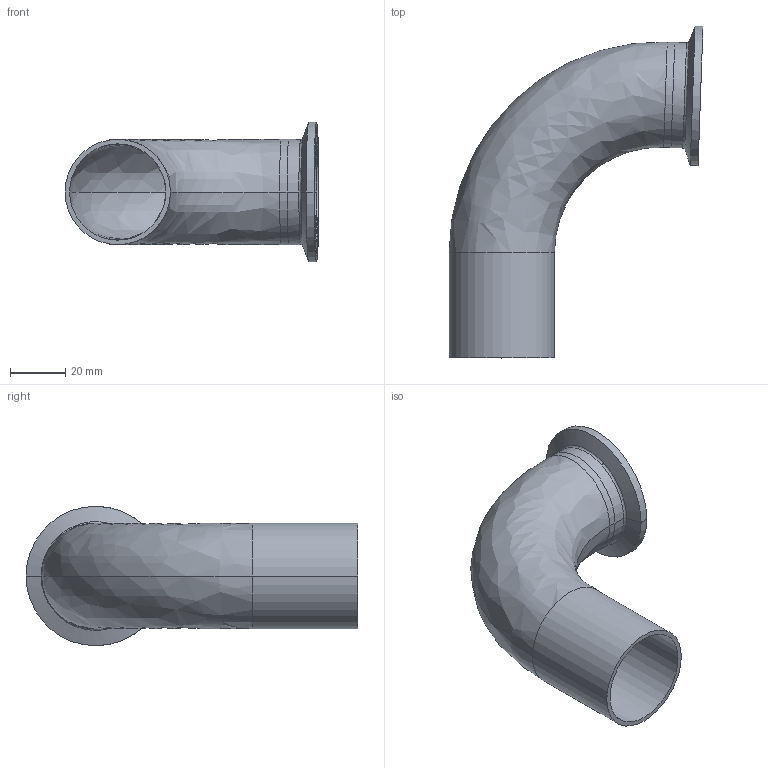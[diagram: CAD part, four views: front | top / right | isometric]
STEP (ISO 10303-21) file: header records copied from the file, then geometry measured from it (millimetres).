
FILE_DESCRIPTION (( 'STEP AP214' ), '1' );
FILE_NAME ('TE2C926L1.5-...STEP', '2016-05-22T11:05:12', ( 'eran' ), ( '' ), 'SwSTEP 2.0', 'SolidWorks 2016', '' );
FILE_SCHEMA (( 'AUTOMOTIVE_DESIGN' ));
Length unit declared in the file: millimetre
Products named in the file (1): TE2C926L1.5-..
Bounding box: 91.81 x 120.02 x 50.39 mm (x, y, z)
Volume: 30104.3 mm3; surface area: 35048.1 mm2
Topology: 2 solids, 2 shells, 39 faces, 92 edges, 58 vertices
Faces by surface type: bspline 14, cylinder 14, cone 6, plane 5
Entity records: 1769 total; most frequent: CARTESIAN_POINT 826, DIRECTION 204, ORIENTED_EDGE 184, AXIS2_PLACEMENT_3D 92, EDGE_CURVE 92, CIRCLE 66, VERTEX_POINT 58, EDGE_LOOP 44
